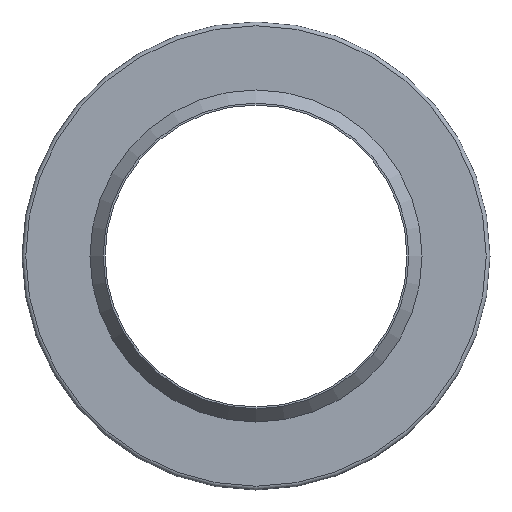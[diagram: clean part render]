
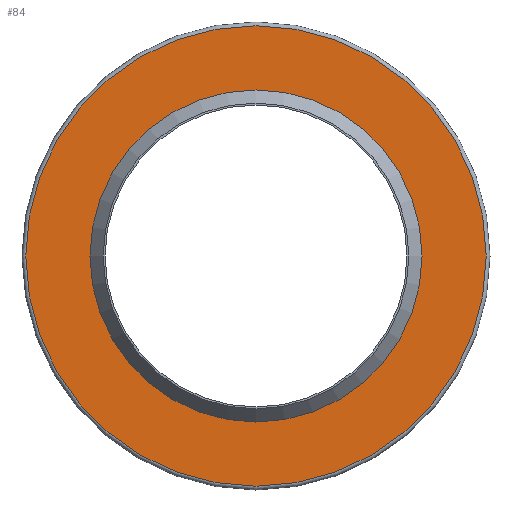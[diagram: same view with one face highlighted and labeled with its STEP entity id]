
A CAD part, left-side view. The second image highlights one B-rep face of the part: STEP entity #84.
In plain terms, the highlighted planar face has unit normal (-1, 0, 0).
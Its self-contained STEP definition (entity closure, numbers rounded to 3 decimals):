
#84=ADVANCED_FACE('',(#117,#118),#119,.T.);
#117=FACE_OUTER_BOUND('',#159,.T.);
#118=FACE_BOUND('',#160,.T.);
#119=PLANE('',#161);
#159=EDGE_LOOP('',(#219));
#160=EDGE_LOOP('',(#220));
#161=AXIS2_PLACEMENT_3D('',#221,#222,#223);
#219=ORIENTED_EDGE('',*,*,#254,.T.);
#220=ORIENTED_EDGE('',*,*,#253,.F.);
#221=CARTESIAN_POINT('',(-5.,22.,0.0));
#222=DIRECTION('',(-1.0,0.0,0.0));
#223=DIRECTION('',(0.0,0.0,1.0));
#253=EDGE_CURVE('',#276,#276,#277,.T.);
#254=EDGE_CURVE('',#278,#278,#279,.T.);
#276=VERTEX_POINT('',#304);
#277=CIRCLE('',#305,22.);
#278=VERTEX_POINT('',#306);
#279=CIRCLE('',#307,30.5);
#304=CARTESIAN_POINT('',(-5.,0.0,22.));
#305=AXIS2_PLACEMENT_3D('',#341,#342,#343);
#306=CARTESIAN_POINT('',(-5.,0.0,30.5));
#307=AXIS2_PLACEMENT_3D('',#344,#345,#346);
#341=CARTESIAN_POINT('',(-5.,0.0,0.0));
#342=DIRECTION('',(-1.0,0.0,0.0));
#343=DIRECTION('',(0.0,0.0,1.0));
#344=CARTESIAN_POINT('',(-5.,0.0,0.0));
#345=DIRECTION('',(-1.0,0.0,0.0));
#346=DIRECTION('',(0.0,0.0,1.0));
